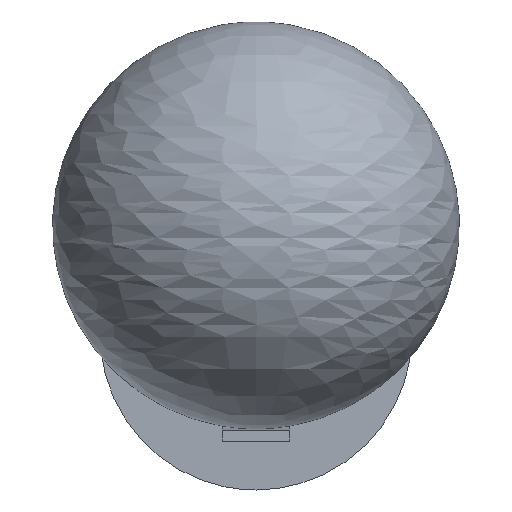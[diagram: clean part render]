
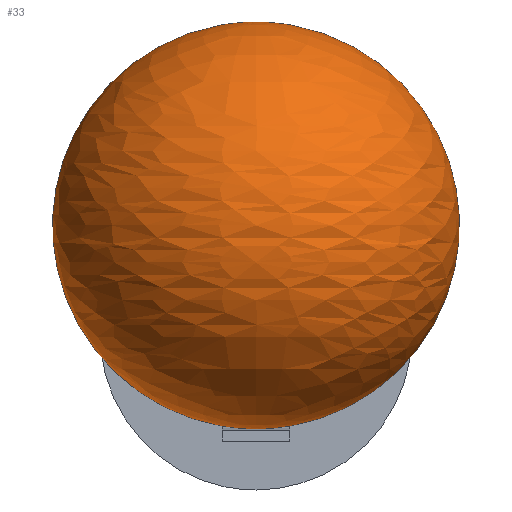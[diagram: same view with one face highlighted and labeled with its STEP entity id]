
A CAD part, front view. The second image highlights one B-rep face of the part: STEP entity #33.
In plain terms, the highlighted free-form (B-spline) face has degree [2, 2] with [5, 5] control points.
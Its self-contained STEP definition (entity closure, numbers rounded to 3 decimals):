
#33=ADVANCED_FACE('',(#47),#215,.T.);
#47=FACE_OUTER_BOUND('',#64,.T.);
#64=EDGE_LOOP('',(#115,#116));
#115=ORIENTED_EDGE('',*,*,#147,.T.);
#116=ORIENTED_EDGE('',*,*,#142,.F.);
#142=EDGE_CURVE('',#195,#196,#173,.T.);
#147=EDGE_CURVE('',#195,#196,#178,.T.);
#173=(
BOUNDED_CURVE()
B_SPLINE_CURVE(2,(#449,#450,#451,#452,#453),.UNSPECIFIED.,.F.,.F.)
B_SPLINE_CURVE_WITH_KNOTS((3,2,3),(-117.81,0.,117.81),
 .UNSPECIFIED.)
CURVE()
GEOMETRIC_REPRESENTATION_ITEM()
RATIONAL_B_SPLINE_CURVE((1.,0.707,1.,0.707,1.))
REPRESENTATION_ITEM('')
);
#178=(
BOUNDED_CURVE()
B_SPLINE_CURVE(2,(#471,#472,#473,#474,#475),.UNSPECIFIED.,.F.,.F.)
B_SPLINE_CURVE_WITH_KNOTS((3,2,3),(-117.81,0.,117.81),
 .UNSPECIFIED.)
CURVE()
GEOMETRIC_REPRESENTATION_ITEM()
RATIONAL_B_SPLINE_CURVE((1.,0.707,1.,0.707,1.))
REPRESENTATION_ITEM('')
);
#195=VERTEX_POINT('',#385);
#196=VERTEX_POINT('',#386);
#215=(
BOUNDED_SURFACE()
B_SPLINE_SURFACE(2,2,((#329,#330,#331,#332,#333),(#334,#335,#336,#337,#338),
(#339,#340,#341,#342,#343),(#344,#345,#346,#347,#348),(#349,#350,#351,#352,
#353)),.UNSPECIFIED.,.F.,.F.,.F.)
B_SPLINE_SURFACE_WITH_KNOTS((3,2,3),(3,2,3),(-117.81,0.,117.81),
(235.619,353.429,471.239),.UNSPECIFIED.)
GEOMETRIC_REPRESENTATION_ITEM()
RATIONAL_B_SPLINE_SURFACE(((1.,0.707,1.,0.707,1.),
(0.707,0.5,0.707,0.5,0.707),(1.,0.707,
1.,0.707,1.),(0.707,0.5,0.707,0.5,0.707),
(1.,0.707,1.,0.707,1.)))
REPRESENTATION_ITEM('')
SURFACE()
);
#329=CARTESIAN_POINT('',(1269.834,-1597.237,154.541));
#330=CARTESIAN_POINT('',(1269.834,-1597.237,154.541));
#331=CARTESIAN_POINT('',(1269.834,-1597.237,154.541));
#332=CARTESIAN_POINT('',(1269.834,-1597.237,154.541));
#333=CARTESIAN_POINT('',(1269.834,-1597.237,154.541));
#334=CARTESIAN_POINT('',(1194.834,-1597.237,154.541));
#335=CARTESIAN_POINT('',(1194.834,-1672.237,154.541));
#336=CARTESIAN_POINT('',(1269.834,-1672.237,154.541));
#337=CARTESIAN_POINT('',(1344.834,-1672.237,154.541));
#338=CARTESIAN_POINT('',(1344.834,-1597.237,154.541));
#339=CARTESIAN_POINT('',(1194.834,-1597.237,79.541));
#340=CARTESIAN_POINT('',(1194.834,-1672.237,79.541));
#341=CARTESIAN_POINT('',(1269.834,-1672.237,79.541));
#342=CARTESIAN_POINT('',(1344.834,-1672.237,79.541));
#343=CARTESIAN_POINT('',(1344.834,-1597.237,79.541));
#344=CARTESIAN_POINT('',(1194.834,-1597.237,4.541));
#345=CARTESIAN_POINT('',(1194.834,-1672.237,4.541));
#346=CARTESIAN_POINT('',(1269.834,-1672.237,4.541));
#347=CARTESIAN_POINT('',(1344.834,-1672.237,4.541));
#348=CARTESIAN_POINT('',(1344.834,-1597.237,4.541));
#349=CARTESIAN_POINT('',(1269.834,-1597.237,4.541));
#350=CARTESIAN_POINT('',(1269.834,-1597.237,4.541));
#351=CARTESIAN_POINT('',(1269.834,-1597.237,4.541));
#352=CARTESIAN_POINT('',(1269.834,-1597.237,4.541));
#353=CARTESIAN_POINT('',(1269.834,-1597.237,4.541));
#385=CARTESIAN_POINT('',(1269.834,-1597.237,154.541));
#386=CARTESIAN_POINT('',(1269.834,-1597.237,4.541));
#449=CARTESIAN_POINT('',(1269.834,-1597.237,154.541));
#450=CARTESIAN_POINT('',(1344.834,-1597.237,154.541));
#451=CARTESIAN_POINT('',(1344.834,-1597.237,79.541));
#452=CARTESIAN_POINT('',(1344.834,-1597.237,4.541));
#453=CARTESIAN_POINT('',(1269.834,-1597.237,4.541));
#471=CARTESIAN_POINT('',(1269.834,-1597.237,154.541));
#472=CARTESIAN_POINT('',(1194.834,-1597.237,154.541));
#473=CARTESIAN_POINT('',(1194.834,-1597.237,79.541));
#474=CARTESIAN_POINT('',(1194.834,-1597.237,4.541));
#475=CARTESIAN_POINT('',(1269.834,-1597.237,4.541));
